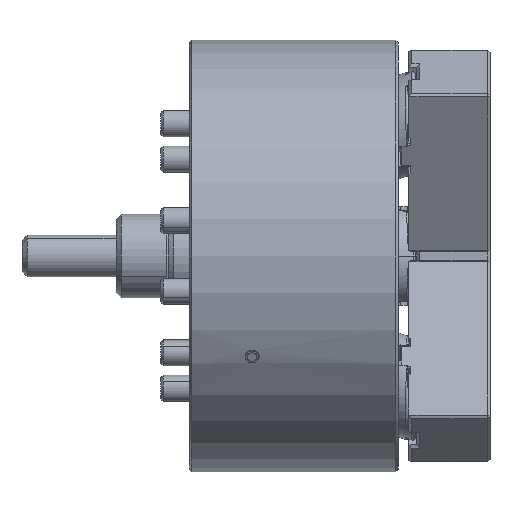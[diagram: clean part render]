
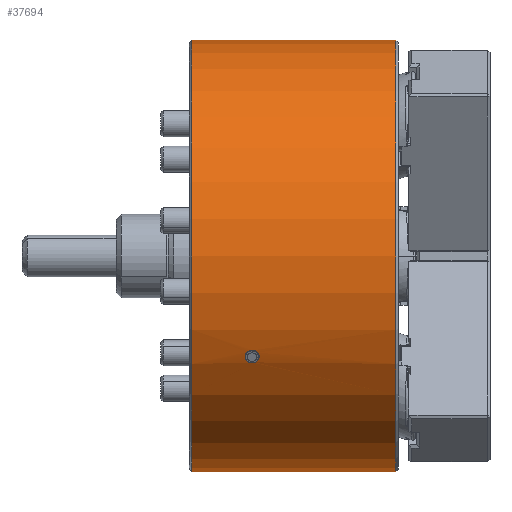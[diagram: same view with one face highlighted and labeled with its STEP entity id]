
A CAD part, front view. The second image highlights one B-rep face of the part: STEP entity #37694.
In plain terms, the highlighted cylindrical face has radius 82.5 mm (diameter 165 mm), a partial arc.
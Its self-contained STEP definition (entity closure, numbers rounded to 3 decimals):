
#546 = LINE ( 'NONE', #1894, #8629 ) ;
#1894 = CARTESIAN_POINT ( 'NONE',  ( 63.843, 0., 82.5 ) ) ;
#1898 = CARTESIAN_POINT ( 'NONE',  ( -53.514, -73.494, -37.483 ) ) ;
#2028 = CARTESIAN_POINT ( 'NONE',  ( -56.373, -74.238, -35.985 ) ) ;
#2350 = EDGE_CURVE ( 'NONE', #25441, #6088, #17471, .T. ) ;
#2526 = DIRECTION ( 'NONE',  ( 0., 0., -1. ) ) ;
#2674 = CARTESIAN_POINT ( 'NONE',  ( -56.346, -71.654, -40.89 ) ) ;
#2797 = CARTESIAN_POINT ( 'NONE',  ( -53.425, -72.582, -39.219 ) ) ;
#4073 = CYLINDRICAL_SURFACE ( 'NONE', #7279, 82.5 ) ;
#4942 = CARTESIAN_POINT ( 'NONE',  ( -53.778, -73.716, -37.043 ) ) ;
#5075 = CARTESIAN_POINT ( 'NONE',  ( -56.916, -74.177, -36.11 ) ) ;
#5716 = CARTESIAN_POINT ( 'NONE',  ( -55.829, -71.645, -40.905 ) ) ;
#5859 = CARTESIAN_POINT ( 'NONE',  ( -53.316, -72.819, -38.777 ) ) ;
#6088 = VERTEX_POINT ( 'NONE', #20344 ) ;
#7279 = AXIS2_PLACEMENT_3D ( 'NONE', #26789, #17662, #2526 ) ;
#7371 = EDGE_CURVE ( 'NONE', #7547, #25441, #546, .T. ) ;
#7547 = VERTEX_POINT ( 'NONE', #32975 ) ;
#8022 = CARTESIAN_POINT ( 'NONE',  ( -54.138, -73.91, -36.654 ) ) ;
#8146 = CARTESIAN_POINT ( 'NONE',  ( -58.673, -72.738, -38.93 ) ) ;
#8156 = CARTESIAN_POINT ( 'NONE',  ( -57.736, -73.974, -36.527 ) ) ;
#8311 = CARTESIAN_POINT ( 'NONE',  ( -58.695, -72.9, -38.625 ) ) ;
#8629 = VECTOR ( 'NONE', #35096, 1000. ) ;
#8672 = CARTESIAN_POINT ( 'NONE',  ( -58.59, -72.58, -39.224 ) ) ;
#8804 = CARTESIAN_POINT ( 'NONE',  ( -55.32, -71.687, -40.832 ) ) ;
#8836 = DIRECTION ( 'NONE',  ( 1., 0., 0. ) ) ;
#10674 = CIRCLE ( 'NONE', #15183, 82.5 ) ;
#10945 = CARTESIAN_POINT ( 'NONE',  ( -53.294, -72.988, -38.459 ) ) ;
#11062 = CARTESIAN_POINT ( 'NONE',  ( -54.575, -74.065, -36.34 ) ) ;
#11185 = CARTESIAN_POINT ( 'NONE',  ( -58.219, -73.718, -37.04 ) ) ;
#11692 = CARTESIAN_POINT ( 'NONE',  ( -58.108, -72.14, -40.027 ) ) ;
#11823 = CARTESIAN_POINT ( 'NONE',  ( -54.678, -71.809, -40.617 ) ) ;
#12163 = VECTOR ( 'NONE', #14537, 1000. ) ;
#13959 = CARTESIAN_POINT ( 'NONE',  ( -53.305, -72.9, -38.625 ) ) ;
#14105 = CARTESIAN_POINT ( 'NONE',  ( -55.078, -74.176, -36.113 ) ) ;
#14242 = CARTESIAN_POINT ( 'NONE',  ( -58.486, -73.493, -37.483 ) ) ;
#14417 = ORIENTED_EDGE ( 'NONE', *, *, #38779, .T. ) ;
#14537 = DIRECTION ( 'NONE',  ( 1., 0., 0. ) ) ;
#14573 = AXIS2_PLACEMENT_3D ( 'NONE', #34904, #16824, #37927 ) ;
#14771 = CARTESIAN_POINT ( 'NONE',  ( -57.604, -71.91, -40.438 ) ) ;
#14795 = B_SPLINE_CURVE_WITH_KNOTS ( 'NONE', 3,
 ( #13959, #10945, #17024, #38129, #20055, #1898, #23120, #4942, #26157, #8022, #29168, #11062, #32192, #14105, #35225, #17149, #38247, #20189, #2028, #23242, #5075, #26284, #8156, #29306, #11185, #32315, #14242, #35351, #17283, #38379 ),
 .UNSPECIFIED., .F., .F.,
 ( 4, 2, 2, 2, 2, 2, 2, 2, 2, 2, 2, 2, 2, 2, 4 ),
 ( 0.008, 0.009, 0.009, 0.01, 0.01, 0.011, 0.011, 0.012, 0.013, 0.013, 0.014, 0.015, 0.015, 0.016, 0.017 ),
 .UNSPECIFIED. ) ;
#14900 = CARTESIAN_POINT ( 'NONE',  ( -54.017, -72.08, -40.134 ) ) ;
#15183 = AXIS2_PLACEMENT_3D ( 'NONE', #26968, #8836, #29975 ) ;
#16275 = VERTEX_POINT ( 'NONE', #8311 ) ;
#16309 = EDGE_CURVE ( 'NONE', #35026, #6088, #35325, .T. ) ;
#16824 = DIRECTION ( 'NONE',  ( 1., 0., 0. ) ) ;
#17024 = CARTESIAN_POINT ( 'NONE',  ( -53.3, -73.076, -38.291 ) ) ;
#17149 = CARTESIAN_POINT ( 'NONE',  ( -55.624, -74.238, -35.985 ) ) ;
#17283 = CARTESIAN_POINT ( 'NONE',  ( -58.718, -73.076, -38.292 ) ) ;
#17471 = CIRCLE ( 'NONE', #14573, 82.5 ) ;
#17476 = ORIENTED_EDGE ( 'NONE', *, *, #16309, .T. ) ;
#17662 = DIRECTION ( 'NONE',  ( 1., 0., 0. ) ) ;
#17671 = CARTESIAN_POINT ( 'NONE',  ( -58.695, -72.9, -38.625 ) ) ;
#17794 = CARTESIAN_POINT ( 'NONE',  ( -57.165, -71.777, -40.674 ) ) ;
#17941 = CARTESIAN_POINT ( 'NONE',  ( -53.708, -72.282, -39.77 ) ) ;
#18800 = EDGE_LOOP ( 'NONE', ( #25594, #25309 ) ) ;
#20055 = CARTESIAN_POINT ( 'NONE',  ( -53.392, -73.33, -37.801 ) ) ;
#20189 = CARTESIAN_POINT ( 'NONE',  ( -56.183, -74.247, -35.967 ) ) ;
#20344 = CARTESIAN_POINT ( 'NONE',  ( -1., 0., -82.5 ) ) ;
#20842 = CARTESIAN_POINT ( 'NONE',  ( -56.682, -71.687, -40.831 ) ) ;
#20972 = CARTESIAN_POINT ( 'NONE',  ( -53.482, -72.503, -39.364 ) ) ;
#21856 = EDGE_CURVE ( 'NONE', #23565, #16275, #14795, .T. ) ;
#22086 = FACE_OUTER_BOUND ( 'NONE', #37125, .T. ) ;
#22174 = ORIENTED_EDGE ( 'NONE', *, *, #7371, .F. ) ;
#23120 = CARTESIAN_POINT ( 'NONE',  ( -53.591, -73.571, -37.331 ) ) ;
#23242 = CARTESIAN_POINT ( 'NONE',  ( -56.739, -74.203, -36.057 ) ) ;
#23565 = VERTEX_POINT ( 'NONE', #29950 ) ;
#23877 = CARTESIAN_POINT ( 'NONE',  ( -56.172, -71.645, -40.905 ) ) ;
#24010 = CARTESIAN_POINT ( 'NONE',  ( -53.342, -72.74, -38.926 ) ) ;
#25309 = ORIENTED_EDGE ( 'NONE', *, *, #21856, .F. ) ;
#25441 = VERTEX_POINT ( 'NONE', #32882 ) ;
#25594 = ORIENTED_EDGE ( 'NONE', *, *, #33491, .F. ) ;
#26157 = CARTESIAN_POINT ( 'NONE',  ( -53.889, -73.785, -36.905 ) ) ;
#26284 = CARTESIAN_POINT ( 'NONE',  ( -57.429, -74.074, -36.321 ) ) ;
#26789 = CARTESIAN_POINT ( 'NONE',  ( 63.843, 0., 0. ) ) ;
#26945 = CARTESIAN_POINT ( 'NONE',  ( -55.658, -71.654, -40.89 ) ) ;
#26968 = CARTESIAN_POINT ( 'NONE',  ( -79., 0., 0. ) ) ;
#27071 = CARTESIAN_POINT ( 'NONE',  ( -53.305, -72.9, -38.625 ) ) ;
#29168 = CARTESIAN_POINT ( 'NONE',  ( -54.275, -73.966, -36.541 ) ) ;
#29306 = CARTESIAN_POINT ( 'NONE',  ( -58.11, -73.786, -36.904 ) ) ;
#29737 = CARTESIAN_POINT ( 'NONE',  ( -79., 0., -82.5 ) ) ;
#29817 = CARTESIAN_POINT ( 'NONE',  ( -58.305, -72.277, -39.779 ) ) ;
#29948 = CARTESIAN_POINT ( 'NONE',  ( -55.153, -71.712, -40.788 ) ) ;
#29950 = CARTESIAN_POINT ( 'NONE',  ( -53.305, -72.9, -38.625 ) ) ;
#29975 = DIRECTION ( 'NONE',  ( 0., 0., -1. ) ) ;
#32192 = CARTESIAN_POINT ( 'NONE',  ( -54.739, -74.108, -36.253 ) ) ;
#32315 = CARTESIAN_POINT ( 'NONE',  ( -58.408, -73.572, -37.329 ) ) ;
#32826 = CARTESIAN_POINT ( 'NONE',  ( -57.737, -71.963, -40.344 ) ) ;
#32882 = CARTESIAN_POINT ( 'NONE',  ( -1., 0., 82.5 ) ) ;
#32970 = CARTESIAN_POINT ( 'NONE',  ( -54.385, -71.905, -40.448 ) ) ;
#32975 = CARTESIAN_POINT ( 'NONE',  ( -79., 0., 82.5 ) ) ;
#33242 = B_SPLINE_CURVE_WITH_KNOTS ( 'NONE', 3,
 ( #17671, #8146, #8672, #29817, #11692, #32826, #14771, #35865, #17794, #38902, #20842, #2674, #23877, #5716, #26945, #8804, #29948, #11823, #32970, #14900, #35996, #17941, #39032, #20972, #2797, #24010, #5859, #27071 ),
 .UNSPECIFIED., .F., .F.,
 ( 4, 2, 2, 2, 2, 2, 2, 2, 2, 2, 2, 2, 2, 4 ),
 ( 0.017, 0.018, 0.019, 0.02, 0.02, 0.021, 0.021, 0.022, 0.022, 0.023, 0.024, 0.024, 0.025, 0.025 ),
 .UNSPECIFIED. ) ;
#33491 = EDGE_CURVE ( 'NONE', #16275, #23565, #33242, .T. ) ;
#34904 = CARTESIAN_POINT ( 'NONE',  ( -1., 0., 0. ) ) ;
#35026 = VERTEX_POINT ( 'NONE', #29737 ) ;
#35096 = DIRECTION ( 'NONE',  ( 1., 0., 0. ) ) ;
#35225 = CARTESIAN_POINT ( 'NONE',  ( -55.255, -74.203, -36.059 ) ) ;
#35325 = LINE ( 'NONE', #35650, #12163 ) ;
#35351 = CARTESIAN_POINT ( 'NONE',  ( -58.667, -73.251, -37.955 ) ) ;
#35650 = CARTESIAN_POINT ( 'NONE',  ( 63.843, 0., -82.5 ) ) ;
#35865 = CARTESIAN_POINT ( 'NONE',  ( -57.318, -71.817, -40.602 ) ) ;
#35996 = CARTESIAN_POINT ( 'NONE',  ( -53.904, -72.145, -40.017 ) ) ;
#36242 = FACE_BOUND ( 'NONE', #18800, .T. ) ;
#37125 = EDGE_LOOP ( 'NONE', ( #22174, #14417, #17476, #37620 ) ) ;
#37620 = ORIENTED_EDGE ( 'NONE', *, *, #2350, .F. ) ;
#37694 = ADVANCED_FACE ( 'NONE', ( #22086, #36242 ), #4073, .T. ) ;
#37927 = DIRECTION ( 'NONE',  ( 0., 0., -1. ) ) ;
#38129 = CARTESIAN_POINT ( 'NONE',  ( -53.35, -73.247, -37.963 ) ) ;
#38247 = CARTESIAN_POINT ( 'NONE',  ( -55.81, -74.247, -35.967 ) ) ;
#38379 = CARTESIAN_POINT ( 'NONE',  ( -58.695, -72.9, -38.625 ) ) ;
#38779 = EDGE_CURVE ( 'NONE', #7547, #35026, #10674, .T. ) ;
#38902 = CARTESIAN_POINT ( 'NONE',  ( -56.846, -71.712, -40.788 ) ) ;
#39032 = CARTESIAN_POINT ( 'NONE',  ( -53.623, -72.353, -39.639 ) ) ;
